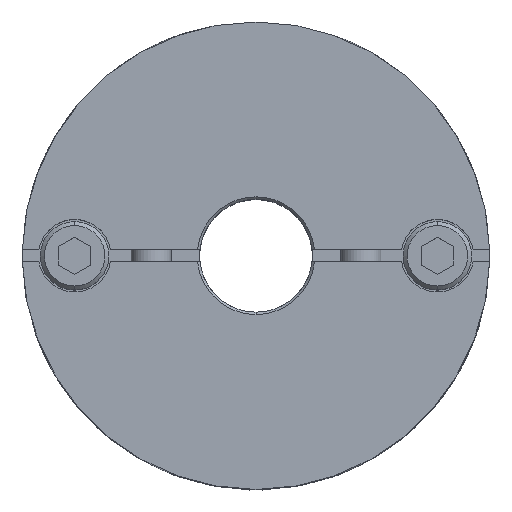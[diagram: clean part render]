
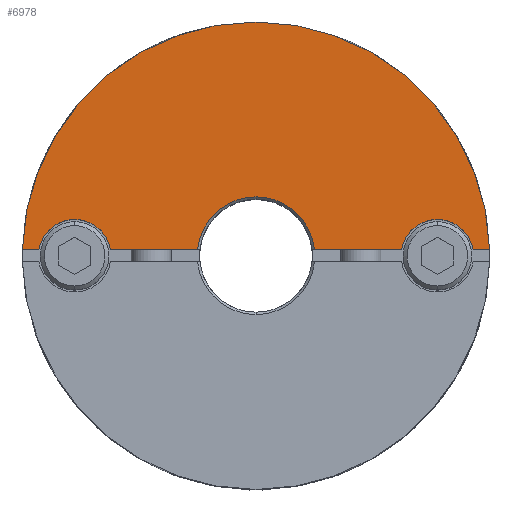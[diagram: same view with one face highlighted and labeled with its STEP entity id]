
A CAD part, top view. The second image highlights one B-rep face of the part: STEP entity #6978.
In plain terms, the highlighted planar face has unit normal (0, 0, 1).
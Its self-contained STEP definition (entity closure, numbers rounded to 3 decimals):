
#605=CARTESIAN_POINT('',(0.,29.,22.4));
#606=VERTEX_POINT('',#605);
#690=CARTESIAN_POINT('',(-28.99,0.75,22.4));
#691=VERTEX_POINT('',#690);
#698=CARTESIAN_POINT('',(0.0,0.,22.4));
#699=DIRECTION('',(0.0,0.0,-1.0));
#700=DIRECTION('',(0.0,1.0,0.0));
#701=AXIS2_PLACEMENT_3D('',#698,#699,#700);
#702=CIRCLE('',#701,29.0);
#703=EDGE_CURVE('',#691,#606,#702,.T.);
#1021=CARTESIAN_POINT('',(0.,7.3,22.4));
#1022=VERTEX_POINT('',#1021);
#1029=CARTESIAN_POINT('',(-7.261,0.75,22.4));
#1030=VERTEX_POINT('',#1029);
#1031=CARTESIAN_POINT('',(0.0,0.,22.4));
#1032=DIRECTION('',(0.0,0.0,1.0));
#1033=DIRECTION('',(0.0,-1.0,0.0));
#1034=AXIS2_PLACEMENT_3D('',#1031,#1032,#1033);
#1035=CIRCLE('',#1034,7.3);
#1036=EDGE_CURVE('',#1022,#1030,#1035,.T.);
#1099=CARTESIAN_POINT('',(-22.5,4.5,22.4));
#1100=VERTEX_POINT('',#1099);
#1109=CARTESIAN_POINT('',(-26.937,0.75,22.4));
#1110=VERTEX_POINT('',#1109);
#1111=CARTESIAN_POINT('',(-22.5,0.,22.4));
#1112=DIRECTION('',(0.0,0.0,-1.0));
#1113=DIRECTION('',(0.0,1.0,0.0));
#1114=AXIS2_PLACEMENT_3D('',#1111,#1112,#1113);
#1115=CIRCLE('',#1114,4.5);
#1116=EDGE_CURVE('',#1110,#1100,#1115,.T.);
#1183=CARTESIAN_POINT('',(22.5,4.5,22.4));
#1184=VERTEX_POINT('',#1183);
#1193=CARTESIAN_POINT('',(18.063,0.75,22.4));
#1194=VERTEX_POINT('',#1193);
#1195=CARTESIAN_POINT('',(22.5,0.,22.4));
#1196=DIRECTION('',(0.0,0.0,-1.0));
#1197=DIRECTION('',(0.0,1.0,0.0));
#1198=AXIS2_PLACEMENT_3D('',#1195,#1196,#1197);
#1199=CIRCLE('',#1198,4.5);
#1200=EDGE_CURVE('',#1194,#1184,#1199,.T.);
#6654=CARTESIAN_POINT('',(26.937,0.75,22.4));
#6655=VERTEX_POINT('',#6654);
#6662=CARTESIAN_POINT('',(22.5,0.,22.4));
#6663=DIRECTION('',(0.0,0.0,-1.0));
#6664=DIRECTION('',(0.0,1.0,0.0));
#6665=AXIS2_PLACEMENT_3D('',#6662,#6663,#6664);
#6666=CIRCLE('',#6665,4.5);
#6667=EDGE_CURVE('',#1184,#6655,#6666,.T.);
#6720=CARTESIAN_POINT('',(-18.063,0.75,22.4));
#6721=VERTEX_POINT('',#6720);
#6728=CARTESIAN_POINT('',(-22.5,0.,22.4));
#6729=DIRECTION('',(0.0,0.0,-1.0));
#6730=DIRECTION('',(0.0,1.0,0.0));
#6731=AXIS2_PLACEMENT_3D('',#6728,#6729,#6730);
#6732=CIRCLE('',#6731,4.5);
#6733=EDGE_CURVE('',#1100,#6721,#6732,.T.);
#6752=CARTESIAN_POINT('',(28.99,0.75,22.4));
#6753=VERTEX_POINT('',#6752);
#6760=CARTESIAN_POINT('',(26.937,0.75,22.4));
#6761=DIRECTION('',(1.0,0.0,0.0));
#6762=VECTOR('',#6761,2.053);
#6763=LINE('',#6760,#6762);
#6764=EDGE_CURVE('',#6655,#6753,#6763,.T.);
#6775=CARTESIAN_POINT('',(7.261,0.75,22.4));
#6776=VERTEX_POINT('',#6775);
#6777=CARTESIAN_POINT('',(7.261,0.75,22.4));
#6778=DIRECTION('',(1.0,0.0,0.0));
#6779=VECTOR('',#6778,10.802);
#6780=LINE('',#6777,#6779);
#6781=EDGE_CURVE('',#6776,#1194,#6780,.T.);
#6937=CARTESIAN_POINT('',(0.,2.636,22.4));
#6938=DIRECTION('',(0.0,0.0,1.0));
#6939=DIRECTION('',(0.0,1.0,0.0));
#6940=AXIS2_PLACEMENT_3D('',#6937,#6938,#6939);
#6941=PLANE('',#6940);
#6942=ORIENTED_EDGE('',*,*,#1200,.T.);
#6943=ORIENTED_EDGE('',*,*,#6667,.T.);
#6944=ORIENTED_EDGE('',*,*,#6764,.T.);
#6945=CARTESIAN_POINT('',(0.0,0.,22.4));
#6946=DIRECTION('',(0.0,0.0,-1.0));
#6947=DIRECTION('',(0.0,1.0,0.0));
#6948=AXIS2_PLACEMENT_3D('',#6945,#6946,#6947);
#6949=CIRCLE('',#6948,29.0);
#6950=EDGE_CURVE('',#606,#6753,#6949,.T.);
#6951=ORIENTED_EDGE('',*,*,#6950,.F.);
#6952=ORIENTED_EDGE('',*,*,#703,.F.);
#6953=CARTESIAN_POINT('',(-28.99,0.75,22.4));
#6954=DIRECTION('',(1.0,0.0,0.0));
#6955=VECTOR('',#6954,2.053);
#6956=LINE('',#6953,#6955);
#6957=EDGE_CURVE('',#691,#1110,#6956,.T.);
#6958=ORIENTED_EDGE('',*,*,#6957,.T.);
#6959=ORIENTED_EDGE('',*,*,#1116,.T.);
#6960=ORIENTED_EDGE('',*,*,#6733,.T.);
#6961=CARTESIAN_POINT('',(-18.063,0.75,22.4));
#6962=DIRECTION('',(1.0,0.0,0.0));
#6963=VECTOR('',#6962,10.802);
#6964=LINE('',#6961,#6963);
#6965=EDGE_CURVE('',#6721,#1030,#6964,.T.);
#6966=ORIENTED_EDGE('',*,*,#6965,.T.);
#6967=ORIENTED_EDGE('',*,*,#1036,.F.);
#6968=CARTESIAN_POINT('',(0.0,0.,22.4));
#6969=DIRECTION('',(0.0,0.0,1.0));
#6970=DIRECTION('',(0.0,-1.0,0.0));
#6971=AXIS2_PLACEMENT_3D('',#6968,#6969,#6970);
#6972=CIRCLE('',#6971,7.3);
#6973=EDGE_CURVE('',#6776,#1022,#6972,.T.);
#6974=ORIENTED_EDGE('',*,*,#6973,.F.);
#6975=ORIENTED_EDGE('',*,*,#6781,.T.);
#6976=EDGE_LOOP('',(#6942,#6943,#6944,#6951,#6952,#6958,#6959,#6960,#6966,#6967,#6974,#6975));
#6977=FACE_OUTER_BOUND('',#6976,.T.);
#6978=ADVANCED_FACE('',(#6977),#6941,.T.);
